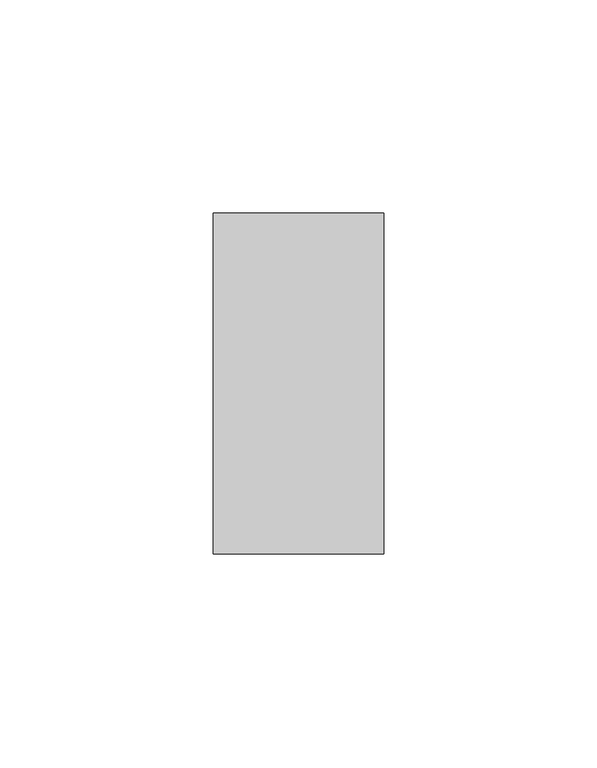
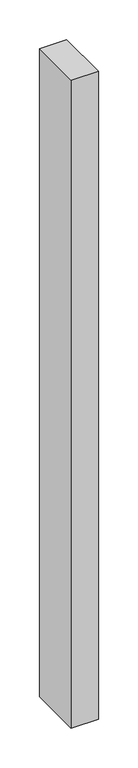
"""IFC4 building model written with IfcOpenShell, lengths in millimetres: member geometry, Obdélníková příčel : VERTI PANORAMA - vertikální."""

from ifc_helpers import new_model, si_unit, frame, origin, place, context, project, spatial, polyline, outline, extrude, source, transform, mapped, element, save


def member_677e4dd9(model_context):
    return source(origin(), model_context, "Body", "SweptSolid", [
        extrude(outline(polyline([(0.0, 40.0), (0.0, -40.0), (-40.0, -40.0), (-40.0, 40.0), (0.0, 40.0)])), frame((0.0, 0.0, -1000.0), z_axis=(0.0, 0.0, 1.0), x_axis=(1.0, 0.0, 0.0)), (0.0, 0.0, 1.0), 1000.0),
    ])


if __name__ == "__main__":
    model = new_model("IFC4")
    model_context = context("Model", 3, world=origin())
    ifc_project = project(units=[si_unit("LENGTHUNIT", "METRE", prefix="MILLI")], contexts=[model_context])
    site = spatial("IfcSite", under=ifc_project)
    building = spatial("IfcBuilding", under=site)
    placement = place(None, origin())
    member_shape = member_677e4dd9(model_context)
    element("IfcMember", 1, ObjectType="Obdélníková příčel : VERTI PANORAMA - vertikální", at=placement, inside=building, context=model_context, shape_type="MappedRepresentation", body=[
        mapped(member_shape, transform((0.0, 0.0, 0.0), x_axis=(1.0, 0.0, 0.0), y_axis=(0.0, 1.0, 0.0), z_axis=(0.0, 0.0, 1.0))),
    ])
    save(model, "model.ifc")
